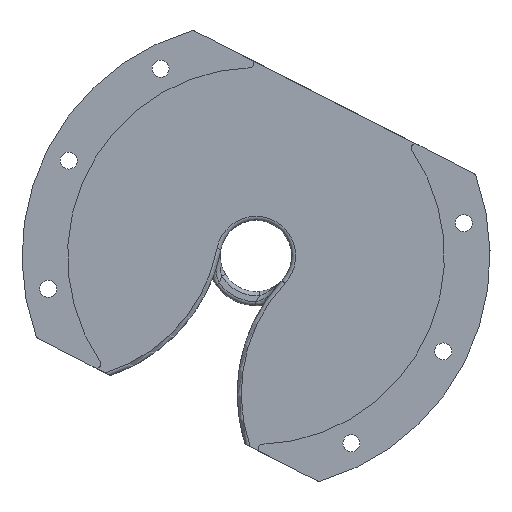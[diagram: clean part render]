
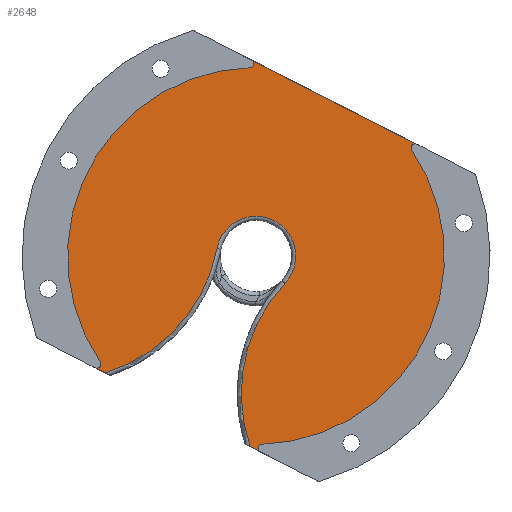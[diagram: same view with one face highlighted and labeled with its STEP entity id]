
A CAD part, left-side view. The second image highlights one B-rep face of the part: STEP entity #2648.
In plain terms, the highlighted planar face has unit normal (-1, 0, 0).
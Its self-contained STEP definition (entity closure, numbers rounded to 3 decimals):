
#628=DIRECTION('',(0.,0.891,0.454));
#629=VECTOR('',#628,2.864);
#630=CARTESIAN_POINT('',(158.7,55.017,-477.451));
#631=LINE('',#630,#629);
#632=CARTESIAN_POINT('',(158.7,57.114,-475.26));
#633=DIRECTION('',(-1.,0.,0.));
#634=DIRECTION('',(0.,0.454,-0.891));
#635=AXIS2_PLACEMENT_3D('',#632,#633,#634);
#637=CARTESIAN_POINT('',(158.7,57.114,-475.26));
#638=DIRECTION('',(-1.,0.,0.));
#639=DIRECTION('',(0.,0.,-1.));
#640=AXIS2_PLACEMENT_3D('',#637,#638,#639);
#642=CARTESIAN_POINT('',(158.7,17.,-448.));
#643=DIRECTION('',(1.,0.,0.));
#644=DIRECTION('',(0.,0.827,-0.562));
#645=AXIS2_PLACEMENT_3D('',#642,#643,#644);
#647=CARTESIAN_POINT('',(158.7,18.525,-399.524));
#648=DIRECTION('',(-1.,0.,0.));
#649=DIRECTION('',(0.,-0.031,-1.));
#650=AXIS2_PLACEMENT_3D('',#647,#648,#649);
#652=DIRECTION('',(0.,-0.891,-0.454));
#653=VECTOR('',#652,46.733);
#654=CARTESIAN_POINT('',(158.7,18.071,-398.633));
#655=LINE('',#654,#653);
#656=CARTESIAN_POINT('',(158.7,-23.114,-420.74));
#657=DIRECTION('',(-1.,0.,0.));
#658=DIRECTION('',(0.,-0.454,0.891));
#659=AXIS2_PLACEMENT_3D('',#656,#657,#658);
#661=CARTESIAN_POINT('',(158.7,-23.114,-420.74));
#662=DIRECTION('',(-1.,0.,0.));
#663=DIRECTION('',(0.,0.,1.));
#664=AXIS2_PLACEMENT_3D('',#661,#662,#663);
#666=CARTESIAN_POINT('',(158.7,17.,-448.));
#667=DIRECTION('',(1.,0.,0.));
#668=DIRECTION('',(0.,-0.827,0.562));
#669=AXIS2_PLACEMENT_3D('',#666,#667,#668);
#671=CARTESIAN_POINT('',(158.7,15.475,-496.476));
#672=DIRECTION('',(-1.,0.,0.));
#673=DIRECTION('',(0.,0.031,1.));
#674=AXIS2_PLACEMENT_3D('',#671,#672,#673);
#676=DIRECTION('',(0.,0.891,0.454));
#677=VECTOR('',#676,2.864);
#678=CARTESIAN_POINT('',(158.7,15.929,-497.367));
#679=LINE('',#678,#677);
#680=CARTESIAN_POINT('',(158.7,-20.065,-482.724));
#681=DIRECTION('',(1.,0.,0.));
#682=DIRECTION('',(0.,0.945,-0.327));
#683=AXIS2_PLACEMENT_3D('',#680,#681,#682);
#685=CARTESIAN_POINT('',(158.7,17.,-448.));
#686=DIRECTION('',(-1.,0.,0.));
#687=DIRECTION('',(0.,-0.73,-0.684));
#688=AXIS2_PLACEMENT_3D('',#685,#686,#687);
#690=CARTESIAN_POINT('',(158.7,17.,-448.));
#691=DIRECTION('',(-1.,0.,0.));
#692=DIRECTION('',(0.,0.,1.));
#693=AXIS2_PLACEMENT_3D('',#690,#691,#692);
#695=CARTESIAN_POINT('',(158.7,66.879,-438.424));
#696=DIRECTION('',(1.,0.,0.));
#697=DIRECTION('',(0.,-0.982,-0.189));
#698=AXIS2_PLACEMENT_3D('',#695,#696,#697);
#1638=CARTESIAN_POINT('',(158.7,57.568,-476.151));
#1639=VERTEX_POINT('',#1638);
#1640=CARTESIAN_POINT('',(158.7,55.017,-477.451));
#1641=VERTEX_POINT('',#1640);
#1837=CARTESIAN_POINT('',(158.7,-23.568,-419.849));
#1838=VERTEX_POINT('',#1837);
#1839=CARTESIAN_POINT('',(158.7,18.071,-398.633));
#1840=VERTEX_POINT('',#1839);
#1921=CARTESIAN_POINT('',(158.7,15.929,-497.367));
#1922=CARTESIAN_POINT('',(158.7,18.481,-496.067));
#1923=VERTEX_POINT('',#1921);
#1924=VERTEX_POINT('',#1922);
#1927=CARTESIAN_POINT('',(158.7,57.114,-476.26));
#1928=VERTEX_POINT('',#1927);
#1929=CARTESIAN_POINT('',(158.7,56.287,-474.697));
#1930=VERTEX_POINT('',#1929);
#1931=CARTESIAN_POINT('',(158.7,18.494,-400.523));
#1932=VERTEX_POINT('',#1931);
#1933=CARTESIAN_POINT('',(158.7,-23.114,-419.74));
#1934=CARTESIAN_POINT('',(158.7,-22.287,-421.303));
#1935=VERTEX_POINT('',#1933);
#1936=VERTEX_POINT('',#1934);
#1937=CARTESIAN_POINT('',(158.7,15.506,-495.477));
#1938=VERTEX_POINT('',#1937);
#1939=CARTESIAN_POINT('',(158.7,9.702,-454.837));
#1940=VERTEX_POINT('',#1939);
#1941=CARTESIAN_POINT('',(158.7,17.,-438.));
#1942=CARTESIAN_POINT('',(158.7,26.821,-446.115));
#1943=VERTEX_POINT('',#1941);
#1944=VERTEX_POINT('',#1942);
#2614=CARTESIAN_POINT('',(158.7,0.,-448.));
#2615=DIRECTION('',(-1.,0.,0.));
#2616=DIRECTION('',(0.,-1.,0.));
#2617=AXIS2_PLACEMENT_3D('',#2614,#2615,#2616);
#2618=PLANE('',#2617);
#2619=ORIENTED_EDGE('',*,*,#2058,.T.);
#2621=ORIENTED_EDGE('',*,*,#2620,.T.);
#2623=ORIENTED_EDGE('',*,*,#2622,.T.);
#2625=ORIENTED_EDGE('',*,*,#2624,.T.);
#2627=ORIENTED_EDGE('',*,*,#2626,.T.);
#2628=ORIENTED_EDGE('',*,*,#2458,.T.);
#2630=ORIENTED_EDGE('',*,*,#2629,.T.);
#2632=ORIENTED_EDGE('',*,*,#2631,.T.);
#2634=ORIENTED_EDGE('',*,*,#2633,.T.);
#2636=ORIENTED_EDGE('',*,*,#2635,.T.);
#2637=ORIENTED_EDGE('',*,*,#2595,.T.);
#2639=ORIENTED_EDGE('',*,*,#2638,.T.);
#2641=ORIENTED_EDGE('',*,*,#2640,.T.);
#2643=ORIENTED_EDGE('',*,*,#2642,.T.);
#2645=ORIENTED_EDGE('',*,*,#2644,.T.);
#2646=EDGE_LOOP('',(#2619,#2621,#2623,#2625,#2627,#2628,#2630,#2632,#2634,#2636,
#2637,#2639,#2641,#2643,#2645));
#2647=FACE_OUTER_BOUND('',#2646,.F.);
#2648=ADVANCED_FACE('',(#2647),#2618,.T.);
#636=CIRCLE('',#635,1.);
#641=CIRCLE('',#640,1.);
#646=CIRCLE('',#645,47.5);
#651=CIRCLE('',#650,1.);
#660=CIRCLE('',#659,1.);
#665=CIRCLE('',#664,1.);
#670=CIRCLE('',#669,47.5);
#675=CIRCLE('',#674,1.);
#684=CIRCLE('',#683,40.789);
#689=CIRCLE('',#688,10.);
#694=CIRCLE('',#693,10.);
#699=CIRCLE('',#698,40.789);
#2058=EDGE_CURVE('',#1641,#1639,#631,.T.);
#2458=EDGE_CURVE('',#1840,#1838,#655,.T.);
#2595=EDGE_CURVE('',#1923,#1924,#679,.T.);
#2620=EDGE_CURVE('',#1639,#1928,#636,.T.);
#2622=EDGE_CURVE('',#1928,#1930,#641,.T.);
#2624=EDGE_CURVE('',#1930,#1932,#646,.T.);
#2626=EDGE_CURVE('',#1932,#1840,#651,.T.);
#2629=EDGE_CURVE('',#1838,#1935,#660,.T.);
#2631=EDGE_CURVE('',#1935,#1936,#665,.T.);
#2633=EDGE_CURVE('',#1936,#1938,#670,.T.);
#2635=EDGE_CURVE('',#1938,#1923,#675,.T.);
#2638=EDGE_CURVE('',#1924,#1940,#684,.T.);
#2640=EDGE_CURVE('',#1940,#1943,#689,.T.);
#2642=EDGE_CURVE('',#1943,#1944,#694,.T.);
#2644=EDGE_CURVE('',#1944,#1641,#699,.T.);
